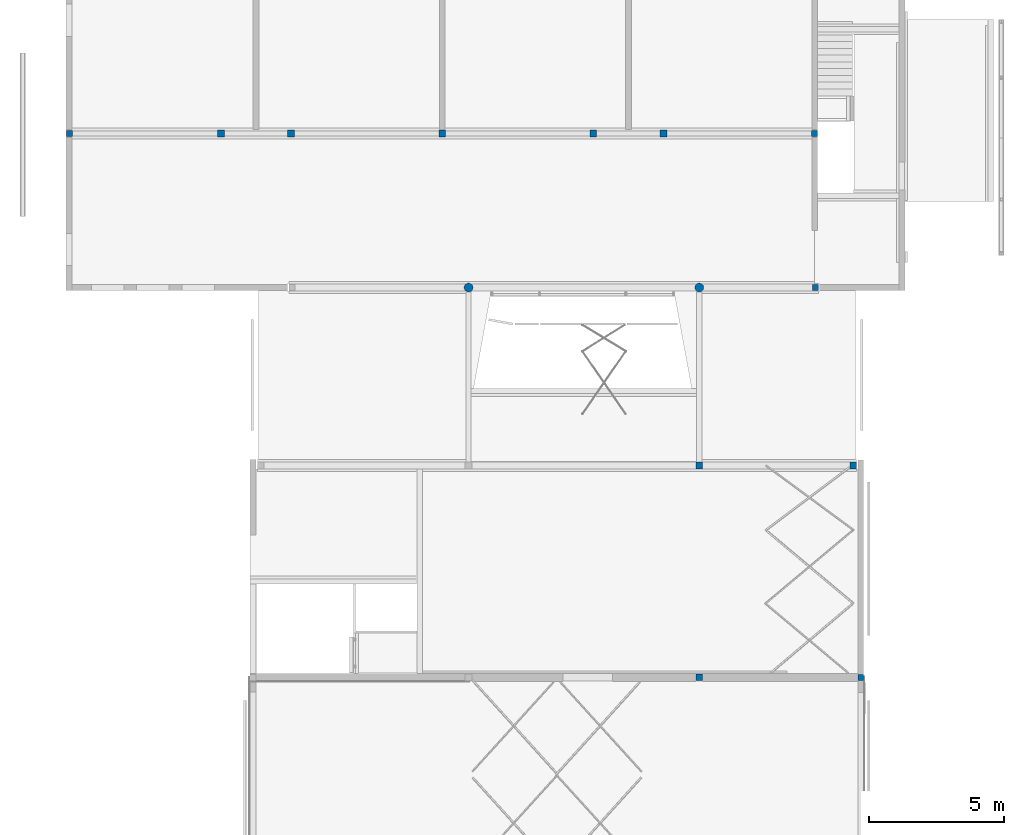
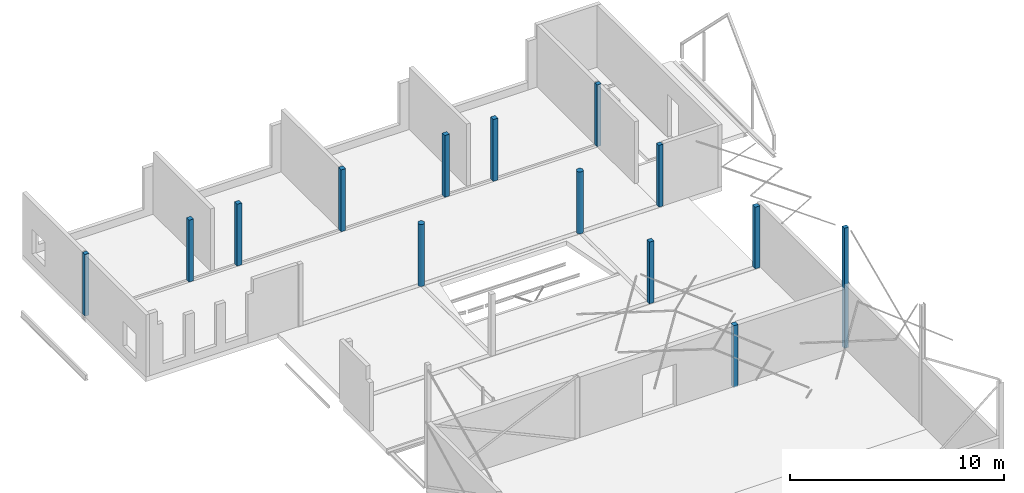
# One storey, part 3 of 14: 14 columns.
"""IFC2X3 building model written with IfcOpenShell, lengths in millimetres."""

from ifc_helpers import new_model, entity, si_unit, converted_unit, derived_unit, direction, frame, frame_2d, origin, origin_2d_with_axis, place, context, subcontext, project, spatial, polyline, rectangle, circle, hollow_circle, outline, extrude, source, transform, mapped, material, material_list, type_object, type_shapes, element, save


model = new_model("IFC2X3")

# Units and contexts
model_context = context("Model", 3, precision=0.01, world=origin(), true_north=direction((6.123031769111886e-17, 1.0)))
body_context = subcontext(model_context, "Body", "Model", "MODEL_VIEW")
ifc_project = project(units=[si_unit("LENGTHUNIT", "METRE", prefix="MILLI"), si_unit("AREAUNIT", "SQUARE_METRE", prefix="MILLI"), si_unit("VOLUMEUNIT", "CUBIC_METRE"), converted_unit("PLANEANGLEUNIT", "DEGREE", entity("IfcPlaneAngleMeasure", 0.017453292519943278), si_unit("PLANEANGLEUNIT", "RADIAN"), dimensions=[0, 0, 0, 0, 0, 0, 0]), si_unit("MASSUNIT", "GRAM", prefix="KILO"), derived_unit("MASSDENSITYUNIT", [(si_unit("MASSUNIT", "GRAM", prefix="KILO"), 1), (si_unit("LENGTHUNIT", "METRE"), -3)]), derived_unit("IONCONCENTRATIONUNIT", [(si_unit("MASSUNIT", "GRAM", prefix="KILO"), 1), (si_unit("LENGTHUNIT", "METRE"), -3)]), derived_unit("MOMENTOFINERTIAUNIT", [(si_unit("LENGTHUNIT", "METRE"), 4)]), si_unit("TIMEUNIT", "SECOND"), si_unit("FREQUENCYUNIT", "HERTZ"), si_unit("THERMODYNAMICTEMPERATUREUNIT", "DEGREE_CELSIUS"), derived_unit("THERMALTRANSMITTANCEUNIT", [(si_unit("MASSUNIT", "GRAM", prefix="KILO"), 1), (si_unit("THERMODYNAMICTEMPERATUREUNIT", "KELVIN"), -1), (si_unit("TIMEUNIT", "SECOND"), -3)]), derived_unit("THERMALCONDUCTANCEUNIT", [(si_unit("MASSUNIT", "GRAM", prefix="KILO"), 1), (si_unit("THERMODYNAMICTEMPERATUREUNIT", "KELVIN"), -1), (si_unit("TIMEUNIT", "SECOND"), -3), (si_unit("LENGTHUNIT", "METRE"), 1)]), derived_unit("VOLUMETRICFLOWRATEUNIT", [(si_unit("LENGTHUNIT", "METRE", prefix="DECI"), 3), (si_unit("TIMEUNIT", "SECOND"), -1)]), derived_unit("MASSFLOWRATEUNIT", [(si_unit("MASSUNIT", "GRAM", prefix="KILO"), 1), (si_unit("TIMEUNIT", "SECOND"), -1)]), derived_unit("ROTATIONALFREQUENCYUNIT", [(si_unit("TIMEUNIT", "SECOND"), -1)]), si_unit("ELECTRICCURRENTUNIT", "AMPERE"), si_unit("ELECTRICVOLTAGEUNIT", "VOLT"), si_unit("POWERUNIT", "WATT"), si_unit("FORCEUNIT", "NEWTON", prefix="KILO"), si_unit("ILLUMINANCEUNIT", "LUX"), si_unit("LUMINOUSFLUXUNIT", "LUMEN"), si_unit("LUMINOUSINTENSITYUNIT", "CANDELA"), si_unit("ENERGYUNIT", "JOULE"), derived_unit("USERDEFINED", [(si_unit("MASSUNIT", "GRAM", prefix="KILO"), -1), (si_unit("LENGTHUNIT", "METRE"), -2), (si_unit("TIMEUNIT", "SECOND"), 3), (si_unit("LUMINOUSFLUXUNIT", "LUMEN"), 1)]), derived_unit("USERDEFINED", [(si_unit("MASSUNIT", "GRAM", prefix="KILO"), 1), (si_unit("TIMEUNIT", "SECOND"), -3), (si_unit("LENGTHUNIT", "METRE"), 3), (si_unit("ELECTRICCURRENTUNIT", "AMPERE"), -2)]), derived_unit("SOUNDPOWERUNIT", [(si_unit("MASSUNIT", "GRAM", prefix="KILO"), 1), (si_unit("TIMEUNIT", "SECOND"), -3), (si_unit("LENGTHUNIT", "METRE"), 2)]), derived_unit("SOUNDPRESSUREUNIT", [(si_unit("MASSUNIT", "GRAM", prefix="KILO"), 1), (si_unit("LENGTHUNIT", "METRE"), -1), (si_unit("TIMEUNIT", "SECOND"), -2)]), derived_unit("LINEARVELOCITYUNIT", [(si_unit("LENGTHUNIT", "METRE"), 1), (si_unit("TIMEUNIT", "SECOND"), -1)]), si_unit("PRESSUREUNIT", "PASCAL"), derived_unit("USERDEFINED", [(si_unit("MASSUNIT", "GRAM", prefix="KILO"), 1), (si_unit("LENGTHUNIT", "METRE"), -2), (si_unit("TIMEUNIT", "SECOND"), -2)]), derived_unit("LINEARFORCEUNIT", [(si_unit("MASSUNIT", "GRAM", prefix="KILO"), 1), (si_unit("TIMEUNIT", "SECOND"), -2)]), derived_unit("PLANARFORCEUNIT", [(si_unit("MASSUNIT", "GRAM", prefix="KILO"), 1), (si_unit("LENGTHUNIT", "METRE"), -1), (si_unit("TIMEUNIT", "SECOND"), -2)]), derived_unit("SPECIFICHEATCAPACITYUNIT", [(si_unit("THERMODYNAMICTEMPERATUREUNIT", "KELVIN"), -1), (si_unit("LENGTHUNIT", "METRE"), 2), (si_unit("TIMEUNIT", "SECOND"), -2)]), derived_unit("HEATFLUXDENSITYUNIT", [(si_unit("MASSUNIT", "GRAM", prefix="KILO"), 1), (si_unit("TIMEUNIT", "SECOND"), -3)]), derived_unit("HEATINGVALUEUNIT", [(si_unit("LENGTHUNIT", "METRE"), 2), (si_unit("TIMEUNIT", "SECOND"), -2)]), derived_unit("VAPORPERMEABILITYUNIT", [(si_unit("LENGTHUNIT", "METRE"), -1), (si_unit("TIMEUNIT", "SECOND"), 1)]), derived_unit("DYNAMICVISCOSITYUNIT", [(si_unit("MASSUNIT", "GRAM", prefix="KILO"), 1), (si_unit("TIMEUNIT", "SECOND"), -1), (si_unit("LENGTHUNIT", "METRE"), -1)]), derived_unit("THERMALEXPANSIONCOEFFICIENTUNIT", [(si_unit("THERMODYNAMICTEMPERATUREUNIT", "KELVIN"), -1)]), derived_unit("MODULUSOFELASTICITYUNIT", [(si_unit("MASSUNIT", "GRAM", prefix="KILO"), 1), (si_unit("LENGTHUNIT", "METRE"), -1), (si_unit("TIMEUNIT", "SECOND"), -2)]), derived_unit("ISOTHERMALMOISTURECAPACITYUNIT", [(si_unit("MASSUNIT", "GRAM", prefix="KILO"), -1), (si_unit("LENGTHUNIT", "METRE"), 3)]), derived_unit("MOISTUREDIFFUSIVITYUNIT", [(si_unit("TIMEUNIT", "SECOND"), -1), (si_unit("LENGTHUNIT", "METRE"), 2)]), derived_unit("MASSPERLENGTHUNIT", [(si_unit("MASSUNIT", "GRAM", prefix="KILO"), 1), (si_unit("LENGTHUNIT", "METRE"), -1)]), derived_unit("THERMALRESISTANCEUNIT", [(si_unit("MASSUNIT", "GRAM", prefix="KILO"), -1), (si_unit("TIMEUNIT", "SECOND"), 3), (si_unit("THERMODYNAMICTEMPERATUREUNIT", "KELVIN"), 1)]), derived_unit("ACCELERATIONUNIT", [(si_unit("LENGTHUNIT", "METRE"), 1), (si_unit("TIMEUNIT", "SECOND"), -2)]), derived_unit("ANGULARVELOCITYUNIT", [(si_unit("TIMEUNIT", "SECOND"), -1), (si_unit("PLANEANGLEUNIT", "RADIAN"), 1)]), derived_unit("LINEARSTIFFNESSUNIT", [(si_unit("MASSUNIT", "GRAM", prefix="KILO"), 1), (si_unit("TIMEUNIT", "SECOND"), -2)]), derived_unit("WARPINGCONSTANTUNIT", [(si_unit("LENGTHUNIT", "METRE"), 6)]), derived_unit("LINEARMOMENTUNIT", [(si_unit("MASSUNIT", "GRAM", prefix="KILO"), 1), (si_unit("LENGTHUNIT", "METRE"), 1), (si_unit("TIMEUNIT", "SECOND"), -2)]), derived_unit("TORQUEUNIT", [(si_unit("MASSUNIT", "GRAM", prefix="KILO"), 1), (si_unit("LENGTHUNIT", "METRE"), 2), (si_unit("TIMEUNIT", "SECOND"), -2)])], contexts=[model_context])

# Site, building, storey
site_placement = place(None, origin())
site = spatial("IfcSite", under=ifc_project, at=site_placement, Name="Default", CompositionType="ELEMENT")
building_placement = place(site_placement, origin())
building = spatial("IfcBuilding", under=site, at=building_placement, CompositionType="ELEMENT")
storey_placement = place(building_placement, frame((0.0, 0.0, 3730.0)))
storey = spatial("IfcBuildingStorey", under=building, at=storey_placement, Name="V1 1e verd. (bk ruwe vloer)", CompositionType="ELEMENT", Elevation=3729.9999999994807)

# Columns
ifc_material_1 = material(Name="Metal - Steel - S275 J0H (standaard-kokers/buizen)")
ifc_material_2 = material(Name="Concrete - Cast-in-Place - C30/37")
ifc_material_list_1 = material_list([ifc_material_1, ifc_material_2])
column_type_1 = type_object("IfcColumnType", Name="btk_staal - Koker + beton:K250x250x8.0", PredefinedType="COLUMN", material=ifc_material_list_1)
shared_shape_1 = source(origin(), body_context, "Body", "SweptSolid", [
    extrude(outline(polyline([(-125.0, -125.0), (125.0, -125.0), (125.0, 125.0), (-125.0, 125.0), (-125.0, -125.0)]), holes=[polyline([(-117.0, -117.0), (-117.0, 117.0), (117.0, 117.0), (117.0, -117.0), (-117.0, -117.0)])]), frame((5525.000781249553, 37644.573205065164, 3730.0), z_axis=(0.0, 0.0, 1.0), x_axis=(-1.0, 0.0, 0.0)), (0.0, 0.0, 1.0), 3524.9999999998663),
    extrude(rectangle(XDim=233.99999999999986, YDim=233.99999999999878, at=frame_2d((5.400124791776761e-13, 0.0), x_axis=(1.0, 0.0))), frame((5525.000781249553, 37644.573205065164, 3730.0), z_axis=(0.0, 0.0, 1.0), x_axis=(-1.0, 0.0, 0.0)), (0.0, 0.0, 1.0), 3524.9999999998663),
])
type_shapes(column_type_1, [shared_shape_1])
column_1_placement = place(storey_placement, frame((0.0, 0.0, -3730.0)))
element("IfcColumn", 1, at=column_1_placement, inside=storey, type_object=column_type_1, material=ifc_material_list_1, Name="btk_staal - Koker + beton:K250x250x8.0", ObjectType="btk_staal - Koker + beton:K250x250x8.0", context=body_context, shape_type="MappedRepresentation", body=[
    mapped(shared_shape_1, transform((0.0, 0.0, 0.0), scale=1.0)),
])
ifc_material_list_2 = material_list([ifc_material_2, ifc_material_1])
column_type_2 = type_object("IfcColumnType", Name="btk_staal - Koker + beton:K220x220x8", PredefinedType="COLUMN", material=ifc_material_list_2)
shared_shape_2 = source(origin(), body_context, "Body", "SweptSolid", [
    extrude(rectangle(XDim=203.9999999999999, YDim=204.00000000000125, at=frame_2d((-1.4210854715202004e-14, 2.1671553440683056e-12), x_axis=(1.0, 0.0))), frame((-89.0, 37644.573205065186, 3730.0), z_axis=(0.0, 0.0, 1.0), x_axis=(-1.0, 0.0, 0.0)), (0.0, 0.0, 1.0), 3524.9999999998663),
    extrude(outline(polyline([(-110.0, -110.0), (110.0, -110.0), (110.0, 110.0), (-110.0, 110.0), (-110.0, -110.0)]), holes=[polyline([(-102.0, -102.0), (-102.0, 102.0), (102.0, 102.0), (102.0, -102.0), (-102.0, -102.0)])]), frame((-89.0, 37644.573205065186, 3730.0), z_axis=(0.0, 0.0, 1.0), x_axis=(-1.0, 0.0, 0.0)), (0.0, 0.0, 1.0), 3524.9999999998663),
])
type_shapes(column_type_2, [shared_shape_2])
column_2_placement = place(storey_placement, frame((0.0, 0.0, -3730.0)))
element("IfcColumn", 2, at=column_2_placement, inside=storey, type_object=column_type_2, material=ifc_material_list_2, Name="btk_staal - Koker + beton:K220x220x8", ObjectType="btk_staal - Koker + beton:K220x220x8", context=body_context, shape_type="MappedRepresentation", body=[
    mapped(shared_shape_2, transform((0.0, 0.0, 0.0), scale=1.0)),
])
column_type_3 = type_object("IfcColumnType", Name="btk_staal - Koker + beton:K250x250x8.0", PredefinedType="COLUMN", material=ifc_material_list_1)
shared_shape_3 = source(origin(), body_context, "Body", "SweptSolid", [
    extrude(outline(polyline([(-125.0, -125.0), (125.0, -125.0), (125.0, 125.0), (-125.0, 125.0), (-125.0, -125.0)]), holes=[polyline([(-117.0, -117.0), (-117.0, 117.0), (117.0, 117.0), (117.0, -117.0), (-117.0, -117.0)])]), frame((8124.985770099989, 37644.573205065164, 3730.0), z_axis=(0.0, 0.0, 1.0), x_axis=(-1.0, 0.0, 0.0)), (0.0, 0.0, 1.0), 3524.9999999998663),
    extrude(rectangle(XDim=233.99999999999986, YDim=233.99999999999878, at=frame_2d((5.400124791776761e-13, 0.0), x_axis=(1.0, 0.0))), frame((8124.985770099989, 37644.57320506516, 3730.0), z_axis=(0.0, 0.0, 1.0), x_axis=(-1.0, 0.0, 0.0)), (0.0, 0.0, 1.0), 3524.9999999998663),
])
type_shapes(column_type_3, [shared_shape_3])
column_3_placement = place(storey_placement, frame((0.0, 0.0, -3730.0)))
element("IfcColumn", 3, at=column_3_placement, inside=storey, type_object=column_type_3, material=ifc_material_list_1, Name="btk_staal - Koker + beton:K250x250x8.0", ObjectType="btk_staal - Koker + beton:K250x250x8.0", context=body_context, shape_type="MappedRepresentation", body=[
    mapped(shared_shape_3, transform((0.0, 0.0, 0.0), scale=1.0)),
])
column_type_4 = type_object("IfcColumnType", Name="btk_staal - Koker + beton:K250x250x8.0", PredefinedType="COLUMN", material=ifc_material_list_2)
shared_shape_4 = source(origin(), body_context, "Body", "SweptSolid", [
    extrude(rectangle(XDim=234.00000000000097, YDim=233.99999999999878, at=frame_2d((1.0871303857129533e-12, 0.0), x_axis=(1.0, 0.0))), frame((13725.000781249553, 37644.573205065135, 3730.0), z_axis=(0.0, 0.0, 1.0), x_axis=(-1.0, 0.0, 0.0)), (0.0, 0.0, 1.0), 3524.9999999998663),
    extrude(outline(polyline([(-125.0, -125.0), (125.0, -125.0), (125.0, 125.0), (-125.0, 125.0), (-125.0, -125.0)]), holes=[polyline([(-117.0, -117.0), (-117.0, 117.0), (117.0, 117.0), (117.0, -117.0), (-117.0, -117.0)])]), frame((13725.000781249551, 37644.57320506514, 3730.0), z_axis=(0.0, 0.0, 1.0), x_axis=(-1.0, 0.0, 0.0)), (0.0, 0.0, 1.0), 3524.9999999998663),
])
type_shapes(column_type_4, [shared_shape_4])
column_4_placement = place(storey_placement, frame((0.0, 0.0, -3730.0)))
element("IfcColumn", 4, at=column_4_placement, inside=storey, type_object=column_type_4, material=ifc_material_list_2, Name="btk_staal - Koker + beton:K250x250x8.0", ObjectType="btk_staal - Koker + beton:K250x250x8.0", context=body_context, shape_type="MappedRepresentation", body=[
    mapped(shared_shape_4, transform((0.0, 0.0, 0.0), scale=1.0)),
])
column_type_5 = type_object("IfcColumnType", Name="btk_staal - Koker + beton:K250x250x8.0", PredefinedType="COLUMN", material=ifc_material_list_2)
shared_shape_5 = source(origin(), body_context, "Body", "SweptSolid", [
    extrude(rectangle(XDim=234.00000000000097, YDim=233.99999999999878, at=frame_2d((-1.0871303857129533e-12, 0.0), x_axis=(1.0, 0.0))), frame((19324.984654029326, 37644.57320506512, 3730.0), z_axis=(0.0, 0.0, 1.0), x_axis=(-1.0, 0.0, 0.0)), (0.0, 0.0, 1.0), 3524.9999999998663),
    extrude(outline(polyline([(-125.0, -125.0), (125.0, -125.0), (125.0, 125.0), (-125.0, 125.0), (-125.0, -125.0)]), holes=[polyline([(-117.0, -117.0), (-117.0, 117.0), (117.0, 117.0), (117.0, -117.0), (-117.0, -117.0)])]), frame((19324.984654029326, 37644.57320506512, 3730.0), z_axis=(0.0, 0.0, 1.0), x_axis=(-1.0, 0.0, 0.0)), (0.0, 0.0, 1.0), 3524.9999999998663),
])
type_shapes(column_type_5, [shared_shape_5])
column_5_placement = place(storey_placement, frame((0.0, 0.0, -3730.0)))
element("IfcColumn", 5, at=column_5_placement, inside=storey, type_object=column_type_5, material=ifc_material_list_2, Name="btk_staal - Koker + beton:K250x250x8.0", ObjectType="btk_staal - Koker + beton:K250x250x8.0", context=body_context, shape_type="MappedRepresentation", body=[
    mapped(shared_shape_5, transform((0.0, 0.0, 0.0), scale=1.0)),
])
column_type_6 = type_object("IfcColumnType", Name="btk_staal - Koker + beton:K250x250x8.0", PredefinedType="COLUMN", material=ifc_material_list_2)
shared_shape_6 = source(origin(), body_context, "Body", "SweptSolid", [
    extrude(rectangle(XDim=233.99999999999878, YDim=233.99999999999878, at=origin_2d_with_axis()), frame((21924.984654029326, 37644.573205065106, 3730.0), z_axis=(0.0, 0.0, 1.0), x_axis=(-1.0, 0.0, 0.0)), (0.0, 0.0, 1.0), 3524.9999999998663),
    extrude(outline(polyline([(-125.0, -125.0), (125.0, -125.0), (125.0, 125.0), (-125.0, 125.0), (-125.0, -125.0)]), holes=[polyline([(-117.0, -117.0), (-117.0, 117.0), (117.0, 117.0), (117.0, -117.0), (-117.0, -117.0)])]), frame((21924.984654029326, 37644.573205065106, 3730.0), z_axis=(0.0, 0.0, 1.0), x_axis=(-1.0, 0.0, 0.0)), (0.0, 0.0, 1.0), 3524.9999999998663),
])
type_shapes(column_type_6, [shared_shape_6])
column_6_placement = place(storey_placement, frame((0.0, 0.0, -3730.0)))
element("IfcColumn", 6, at=column_6_placement, inside=storey, type_object=column_type_6, material=ifc_material_list_2, Name="btk_staal - Koker + beton:K250x250x8.0", ObjectType="btk_staal - Koker + beton:K250x250x8.0", context=body_context, shape_type="MappedRepresentation", body=[
    mapped(shared_shape_6, transform((0.0, 0.0, 0.0), scale=1.0)),
])
column_type_7 = type_object("IfcColumnType", Name="btk_staal - Koker + beton:K220x220x8", PredefinedType="COLUMN", material=ifc_material_list_2)
shared_shape_7 = source(origin(), body_context, "Body", "SweptSolid", [
    extrude(rectangle(XDim=204.00000000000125, YDim=204.00000000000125, at=frame_2d((2.1671553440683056e-12, -2.1671553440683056e-12), x_axis=(1.0, 0.0))), frame((27521.979520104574, 37644.573205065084, 3730.0), z_axis=(0.0, 0.0, 1.0), x_axis=(-1.0, 0.0, 0.0)), (0.0, 0.0, 1.0), 3524.9999999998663),
    extrude(outline(polyline([(-110.0, -110.0), (110.0, -110.0), (110.0, 110.0), (-110.0, 110.0), (-110.0, -110.0)]), holes=[polyline([(-102.0, -102.0), (-102.0, 102.0), (102.0, 102.0), (102.0, -102.0), (-102.0, -102.0)])]), frame((27521.979520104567, 37644.57320506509, 3730.0), z_axis=(0.0, 0.0, 1.0), x_axis=(-1.0, 0.0, 0.0)), (0.0, 0.0, 1.0), 3524.9999999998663),
])
type_shapes(column_type_7, [shared_shape_7])
column_7_placement = place(storey_placement, frame((0.0, 0.0, -3730.0)))
element("IfcColumn", 7, at=column_7_placement, inside=storey, type_object=column_type_7, material=ifc_material_list_2, Name="btk_staal - Koker + beton:K220x220x8", ObjectType="btk_staal - Koker + beton:K220x220x8", context=body_context, shape_type="MappedRepresentation", body=[
    mapped(shared_shape_7, transform((0.0, 0.0, 0.0), scale=1.0)),
])
column_type_8 = type_object("IfcColumnType", Name="btk_staal - Koker + beton:K250x250x8.0", PredefinedType="COLUMN", material=ifc_material_list_2)
shared_shape_8 = source(origin(), body_context, "Body", "SweptSolid", [
    extrude(rectangle(XDim=233.99999999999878, YDim=233.99999999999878, at=origin_2d_with_axis()), frame((23249.986607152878, 25344.605013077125, 3740.0), z_axis=(0.0, 0.0, 1.0), x_axis=(-1.0, 0.0, 0.0)), (0.0, 0.0, 1.0), 3514.9999999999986),
    extrude(outline(polyline([(-125.0, -125.0), (125.0, -125.0), (125.0, 125.0), (-125.0, 125.0), (-125.0, -125.0)]), holes=[polyline([(-117.0, -117.0), (-117.0, 117.0), (117.0, 117.0), (117.0, -117.0), (-117.0, -117.0)])]), frame((23249.98660715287, 25344.605013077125, 3740.0), z_axis=(0.0, 0.0, 1.0), x_axis=(-1.0, 0.0, 0.0)), (0.0, 0.0, 1.0), 3514.9999999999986),
])
type_shapes(column_type_8, [shared_shape_8])
column_8_placement = place(storey_placement, frame((0.0, 0.0, -3730.0)))
element("IfcColumn", 8, at=column_8_placement, inside=storey, type_object=column_type_8, material=ifc_material_list_2, Name="btk_staal - Koker + beton:K250x250x8.0", ObjectType="btk_staal - Koker + beton:K250x250x8.0", context=body_context, shape_type="MappedRepresentation", body=[
    mapped(shared_shape_8, transform((0.0, 0.0, 0.0), scale=1.0)),
])
ifc_material_3 = material(Name="Metal - Steel - S235 JRG2 (standaard)")
ifc_material_list_3 = material_list([ifc_material_3, ifc_material_2])
column_type_9 = type_object("IfcColumnType", Name="btk_staal - Buis + beton:Ø323.9x10", PredefinedType="COLUMN", material=ifc_material_list_3)
shared_shape_9 = source(origin(), body_context, "Body", "SweptSolid", [
    extrude(hollow_circle(Radius=161.94999999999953, WallThickness=9.999999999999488, at=origin_2d_with_axis()), frame((14699.863108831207, 31937.573205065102, 3730.0)), (0.0, 0.0, 1.0), 3525.000000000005),
    extrude(circle(Radius=151.95000000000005, at=origin_2d_with_axis()), frame((14699.863108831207, 31937.573205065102, 3730.0)), (0.0, 0.0, 1.0), 3525.000000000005),
])
type_shapes(column_type_9, [shared_shape_9])
column_9_placement = place(storey_placement, frame((0.0, 0.0, -3730.0)))
element("IfcColumn", 9, at=column_9_placement, inside=storey, type_object=column_type_9, material=ifc_material_list_3, Name="btk_staal - Buis + beton:Ø323.9x10", ObjectType="btk_staal - Buis + beton:Ø323.9x10", context=body_context, shape_type="MappedRepresentation", body=[
    mapped(shared_shape_9, transform((0.0, 0.0, 0.0), scale=1.0)),
])
column_type_10 = type_object("IfcColumnType", Name="btk_staal - Buis + beton:Ø323.9x10", PredefinedType="COLUMN", material=ifc_material_list_3)
shared_shape_10 = source(origin(), body_context, "Body", "SweptSolid", [
    extrude(hollow_circle(Radius=161.94999999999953, WallThickness=9.999999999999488, at=origin_2d_with_axis()), frame((23249.98660715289, 31937.573205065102, 3730.0)), (0.0, 0.0, 1.0), 3525.000000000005),
    extrude(circle(Radius=151.95000000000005, at=origin_2d_with_axis()), frame((23249.98660715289, 31937.573205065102, 3730.0)), (0.0, 0.0, 1.0), 3525.000000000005),
])
type_shapes(column_type_10, [shared_shape_10])
column_10_placement = place(storey_placement, frame((0.0, 0.0, -3730.0)))
element("IfcColumn", 10, at=column_10_placement, inside=storey, type_object=column_type_10, material=ifc_material_list_3, Name="btk_staal - Buis + beton:Ø323.9x10", ObjectType="btk_staal - Buis + beton:Ø323.9x10", context=body_context, shape_type="MappedRepresentation", body=[
    mapped(shared_shape_10, transform((0.0, 0.0, 0.0), scale=1.0)),
])
column_type_11 = type_object("IfcColumnType", Name="btk_staal - Koker + beton:K250x250x8.0", PredefinedType="COLUMN", material=ifc_material_list_2)
shared_shape_11 = source(origin(), body_context, "Body", "SweptSolid", [
    extrude(rectangle(XDim=233.99999999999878, YDim=233.99999999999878, at=origin_2d_with_axis()), frame((28949.982962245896, 25344.605013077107, 3740.0), z_axis=(0.0, 0.0, 1.0), x_axis=(-1.0, 0.0, 0.0)), (0.0, 0.0, 1.0), 3514.9999999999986),
    extrude(outline(polyline([(-125.0, -125.0), (125.0, -125.0), (125.0, 125.0), (-125.0, 125.0), (-125.0, -125.0)]), holes=[polyline([(-117.0, -117.0), (-117.0, 117.0), (117.0, 117.0), (117.0, -117.0), (-117.0, -117.0)])]), frame((28949.982962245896, 25344.605013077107, 3740.0), z_axis=(0.0, 0.0, 1.0), x_axis=(-1.0, 0.0, 0.0)), (0.0, 0.0, 1.0), 3514.9999999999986),
])
type_shapes(column_type_11, [shared_shape_11])
column_11_placement = place(storey_placement, frame((0.0, 0.0, -3730.0)))
element("IfcColumn", 11, at=column_11_placement, inside=storey, type_object=column_type_11, material=ifc_material_list_2, Name="btk_staal - Koker + beton:K250x250x8.0", ObjectType="btk_staal - Koker + beton:K250x250x8.0", context=body_context, shape_type="MappedRepresentation", body=[
    mapped(shared_shape_11, transform((0.0, 0.0, 0.0), scale=1.0)),
])
column_type_12 = type_object("IfcColumnType", Name="btk_staal - Koker + beton:K220x220x8", PredefinedType="COLUMN", material=ifc_material_list_2)
shared_shape_12 = source(origin(), body_context, "Body", "SweptSolid", [
    extrude(rectangle(XDim=203.9999999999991, YDim=204.00000000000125, at=frame_2d((-1.0871303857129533e-12, 2.1671553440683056e-12), x_axis=(1.0, 0.0))), frame((29231.986142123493, 17494.605013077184, 3850.0), z_axis=(0.0, 0.0, 1.0), x_axis=(0.0, -1.0, 0.0)), (0.0, 0.0, 1.0), 6847.953124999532),
    extrude(outline(polyline([(-110.0, -110.0), (110.0, -110.0), (110.0, 110.0), (-110.0, 110.0), (-110.0, -110.0)]), holes=[polyline([(-102.0, -102.0), (-102.0, 102.0), (102.0, 102.0), (102.0, -102.0), (-102.0, -102.0)])]), frame((29231.986142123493, 17494.605013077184, 3850.0), z_axis=(0.0, 0.0, 1.0), x_axis=(0.0, -1.0, 0.0)), (0.0, 0.0, 1.0), 6847.953124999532),
])
type_shapes(column_type_12, [shared_shape_12])
column_12_placement = place(storey_placement, frame((0.0, 0.0, -3730.0)))
element("IfcColumn", 12, at=column_12_placement, inside=storey, type_object=column_type_12, material=ifc_material_list_2, Name="btk_staal - Koker + beton:K220x220x8", ObjectType="btk_staal - Koker + beton:K220x220x8", context=body_context, shape_type="MappedRepresentation", body=[
    mapped(shared_shape_12, transform((0.0, 0.0, 0.0), scale=1.0)),
])
column_type_13 = type_object("IfcColumnType", Name="btk_staal - Koker + beton:K250x250x8.0", PredefinedType="COLUMN", material=ifc_material_list_2)
shared_shape_13 = source(origin(), body_context, "Body", "SweptSolid", [
    extrude(rectangle(XDim=233.99999999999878, YDim=234.00000000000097, at=frame_2d((0.0, 1.0871303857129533e-12), x_axis=(1.0, 0.0))), frame((23249.986607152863, 17494.6050130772, 3730.0), z_axis=(0.0, 0.0, 1.0), x_axis=(-1.0, 0.0, 0.0)), (0.0, 0.0, 1.0), 3525.000000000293),
    extrude(outline(polyline([(-125.0, -125.0), (125.0, -125.0), (125.0, 125.0), (-125.0, 125.0), (-125.0, -125.0)]), holes=[polyline([(-117.0, -117.0), (-117.0, 117.0), (117.0, 117.0), (117.0, -117.0), (-117.0, -117.0)])]), frame((23249.986607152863, 17494.6050130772, 3730.0), z_axis=(0.0, 0.0, 1.0), x_axis=(-1.0, 0.0, 0.0)), (0.0, 0.0, 1.0), 3525.000000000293),
])
type_shapes(column_type_13, [shared_shape_13])
column_13_placement = place(storey_placement, frame((0.0, 0.0, -3730.0)))
element("IfcColumn", 13, at=column_13_placement, inside=storey, type_object=column_type_13, material=ifc_material_list_2, Name="btk_staal - Koker + beton:K250x250x8.0", ObjectType="btk_staal - Koker + beton:K250x250x8.0", context=body_context, shape_type="MappedRepresentation", body=[
    mapped(shared_shape_13, transform((0.0, 0.0, 0.0), scale=1.0)),
])
column_type_14 = type_object("IfcColumnType", Name="btk_staal - Koker + beton:K220x220x8", PredefinedType="COLUMN", material=ifc_material_list_2)
shared_shape_14 = source(origin(), body_context, "Body", "SweptSolid", [
    extrude(rectangle(XDim=204.00000000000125, YDim=204.00000000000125, at=frame_2d((-2.1671553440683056e-12, -2.1671553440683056e-12), x_axis=(1.0, 0.0))), frame((27562.885853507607, 31937.57316510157, 3730.0), z_axis=(0.0, 0.0, 1.0), x_axis=(-1.0, 0.0, 0.0)), (0.0, 0.0, 1.0), 3524.9999999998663),
    extrude(outline(polyline([(-110.0, -110.0), (110.0, -110.0), (110.0, 110.0), (-110.0, 110.0), (-110.0, -110.0)]), holes=[polyline([(-102.0, -102.0), (-102.0, 102.0), (102.0, 102.0), (102.0, -102.0), (-102.0, -102.0)])]), frame((27562.885853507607, 31937.573165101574, 3730.0), z_axis=(0.0, 0.0, 1.0), x_axis=(-1.0, 0.0, 0.0)), (0.0, 0.0, 1.0), 3524.9999999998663),
])
type_shapes(column_type_14, [shared_shape_14])
column_14_placement = place(storey_placement, frame((0.0, 0.0, -3730.0)))
element("IfcColumn", 14, at=column_14_placement, inside=storey, type_object=column_type_14, material=ifc_material_list_2, Name="btk_staal - Koker + beton:K220x220x8", ObjectType="btk_staal - Koker + beton:K220x220x8", context=body_context, shape_type="MappedRepresentation", body=[
    mapped(shared_shape_14, transform((0.0, 0.0, 0.0), scale=1.0)),
])

save(model, "model.ifc")
